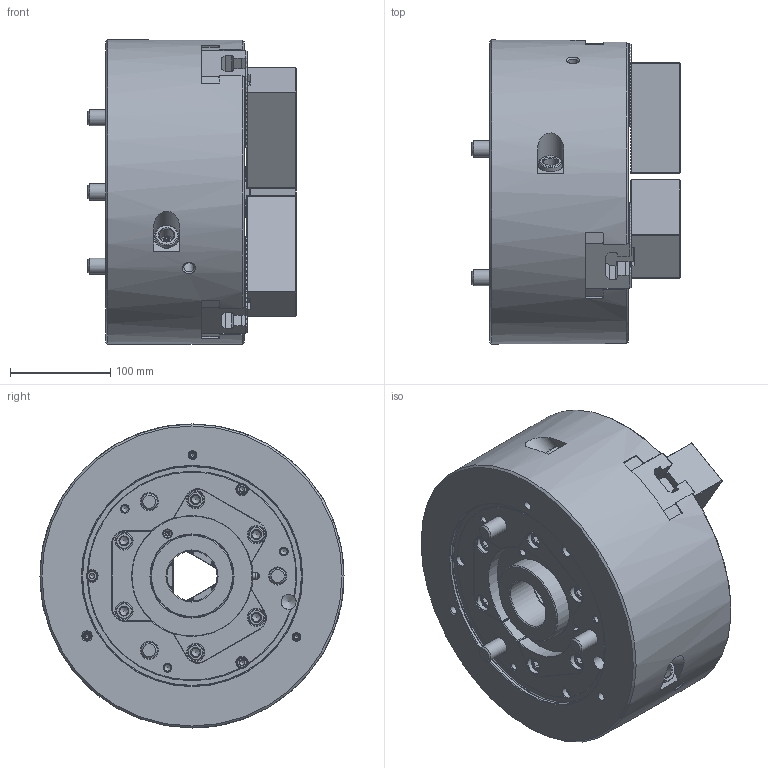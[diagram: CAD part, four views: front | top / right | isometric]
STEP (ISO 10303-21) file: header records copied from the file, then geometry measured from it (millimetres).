
FILE_DESCRIPTION (( 'STEP AP214' ), '1' );
FILE_NAME ('DT1_BL-212_OUTSIDE_VIEW_HCL.STEP', '2024-05-08T02:08:25', ( '' ), ( '' ), 'SwSTEP 2.0', 'SolidWorks 2022', '' );
FILE_SCHEMA (( 'AUTOMOTIVE_DESIGN' ));
Length unit declared in the file: millimetre
Products named in the file (9): DT1_B-212_SOFTJAW^DT1_BL-212_ﾃﾞﾌｫﾙﾄ; DT1_B-212_M16x130^DT1_BL-212_ﾃﾞﾌｫﾙﾄ; DT1_B-212_DRAWNUT^DT1_BL-212_ﾃﾞﾌｫﾙﾄ; DT1_B-212_M5x10^DT1_BL-212_ﾃﾞﾌｫﾙﾄ; BASE^DT1_BL-212_ﾃﾞﾌｫﾙﾄ; DT1_BL-212_OUTSIDE_VIEW_HCL; DT1_B-212_TNUT^DT1_BL-212_ﾃﾞﾌｫﾙﾄ; DT1_B-212_M16x40^DT1_BL-212_ﾃﾞﾌｫﾙﾄ; DT1_B-212_COVER^DT1_BL-212_ﾃﾞﾌｫﾙﾄ
Assembly tree (21 placements, depth 2):
  DT1_BL-212_OUTSIDE_VIEW_HCL
    DT1_B-212_DRAWNUT^DT1_BL-212_ﾃﾞﾌｫﾙﾄ
    DT1_B-212_COVER^DT1_BL-212_ﾃﾞﾌｫﾙﾄ
    DT1_B-212_TNUT^DT1_BL-212_ﾃﾞﾌｫﾙﾄ  x3
    DT1_B-212_SOFTJAW^DT1_BL-212_ﾃﾞﾌｫﾙﾄ  x3
    BASE^DT1_BL-212_ﾃﾞﾌｫﾙﾄ
    DT1_B-212_M16x40^DT1_BL-212_ﾃﾞﾌｫﾙﾄ  x6
    DT1_B-212_M16x130^DT1_BL-212_ﾃﾞﾌｫﾙﾄ  x3
    DT1_B-212_M5x10^DT1_BL-212_ﾃﾞﾌｫﾙﾄ  x3
Bounding box: 208 x 304 x 304 mm (x, y, z)
Volume: 9956823.9 mm3; surface area: 732308 mm2
Topology: 21 solids, 33 shells, 4071 faces, 11436 edges, 7523 vertices
Faces by surface type: plane 3344, cylinder 291, cone 283, bspline 121, torus 29, sphere 3
Full cylindrical faces by diameter (mm): 2 x3, 4.2 x3, 5 x5, 5.5 x3, 6 x1, 6.8 x9, 8 x1, 8.6 x3, 9.5 x3, 10 x9, 10.2 x2, 10.22 x3, 11 x9, 14 x6, 15 x4, 16 x9, 16.27 x6, 17 x15, 23.5 x3, 24.1 x3, 24.33 x9, 25 x9, 50 x1, 63 x1, 67 x3, 76 x1, 83 x2, 83.25 x1, 90 x2, 220 x1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
Entity records: 97481 total; most frequent: CARTESIAN_POINT 25318, ORIENTED_EDGE 15478, DIRECTION 13287, EDGE_CURVE 7739, VECTOR 6259, LINE 6259, VERTEX_POINT 5216, AXIS2_PLACEMENT_3D 3514
